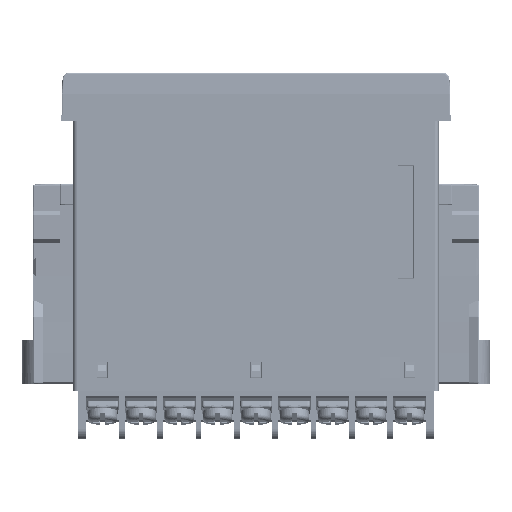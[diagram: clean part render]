
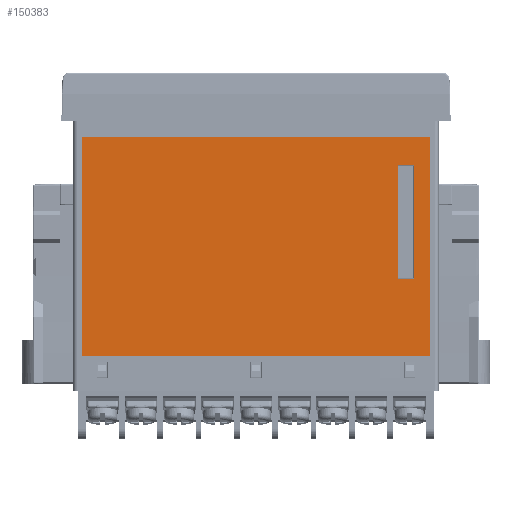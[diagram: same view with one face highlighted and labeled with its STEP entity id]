
A CAD part, left-side view. The second image highlights one B-rep face of the part: STEP entity #150383.
In plain terms, the highlighted planar face has unit normal (-1, 0, 0).
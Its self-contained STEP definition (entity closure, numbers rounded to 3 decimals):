
#6191 = EDGE_CURVE ( 'NONE', #239602, #147489, #277126, .T. ) ;
#8205 = VECTOR ( 'NONE', #19301, 1000. ) ;
#12495 = DIRECTION ( 'NONE',  ( 0., 0., -1. ) ) ;
#19301 = DIRECTION ( 'NONE',  ( 0., 0., 1. ) ) ;
#32607 = DIRECTION ( 'NONE',  ( 0., 0., 1. ) ) ;
#48867 = ORIENTED_EDGE ( 'NONE', *, *, #100745, .F. ) ;
#64475 = CARTESIAN_POINT ( 'NONE',  ( -33.725, -29.225, -34.3 ) ) ;
#67131 = CARTESIAN_POINT ( 'NONE',  ( -33.725, -26.225, -34.3 ) ) ;
#68502 = ORIENTED_EDGE ( 'NONE', *, *, #213053, .F. ) ;
#72426 = ORIENTED_EDGE ( 'NONE', *, *, #6191, .F. ) ;
#73585 = EDGE_LOOP ( 'NONE', ( #72426, #133188, #301153, #268217 ) ) ;
#78486 = VECTOR ( 'NONE', #288674, 1000. ) ;
#82000 = FACE_BOUND ( 'NONE', #73585, .T. ) ;
#82153 = LINE ( 'NONE', #218354, #8205 ) ;
#83056 = DIRECTION ( 'NONE',  ( 0., 1., 0. ) ) ;
#100745 = EDGE_CURVE ( 'NONE', #254710, #264376, #127899, .T. ) ;
#106804 = CARTESIAN_POINT ( 'NONE',  ( -33.725, -32.15, -8. ) ) ;
#115895 = ORIENTED_EDGE ( 'NONE', *, *, #190431, .F. ) ;
#118784 = CARTESIAN_POINT ( 'NONE',  ( -33.725, -29.225, -13.3 ) ) ;
#121452 = DIRECTION ( 'NONE',  ( 0., 0., -1. ) ) ;
#127899 = LINE ( 'NONE', #106804, #252598 ) ;
#130541 = CARTESIAN_POINT ( 'NONE',  ( -33.725, -32.15, -48.5 ) ) ;
#132874 = VECTOR ( 'NONE', #83056, 1000. ) ;
#133098 = CARTESIAN_POINT ( 'NONE',  ( -33.725, 32.15, -48.5 ) ) ;
#133188 = ORIENTED_EDGE ( 'NONE', *, *, #287567, .F. ) ;
#134272 = LINE ( 'NONE', #295560, #266714 ) ;
#140315 = FACE_OUTER_BOUND ( 'NONE', #234608, .T. ) ;
#140470 = CARTESIAN_POINT ( 'NONE',  ( -33.725, -32.15, -8. ) ) ;
#147489 = VERTEX_POINT ( 'NONE', #118784 ) ;
#150383 = ADVANCED_FACE ( 'NONE', ( #82000, #140315 ), #280754, .F. ) ;
#159254 = EDGE_CURVE ( 'NONE', #264376, #249372, #134272, .T. ) ;
#166465 = CARTESIAN_POINT ( 'NONE',  ( -33.725, -26.225, -13.3 ) ) ;
#181718 = DIRECTION ( 'NONE',  ( 1., 0., 0. ) ) ;
#190431 = EDGE_CURVE ( 'NONE', #217095, #254710, #82153, .T. ) ;
#191510 = VECTOR ( 'NONE', #191572, 1000. ) ;
#191572 = DIRECTION ( 'NONE',  ( 0., 1., 0. ) ) ;
#202074 = EDGE_CURVE ( 'NONE', #208591, #306460, #300794, .T. ) ;
#208591 = VERTEX_POINT ( 'NONE', #246543 ) ;
#213053 = EDGE_CURVE ( 'NONE', #249372, #217095, #249722, .T. ) ;
#217095 = VERTEX_POINT ( 'NONE', #296845 ) ;
#218354 = CARTESIAN_POINT ( 'NONE',  ( -33.725, 32.15, -8. ) ) ;
#224883 = CARTESIAN_POINT ( 'NONE',  ( -33.725, 32.15, -8. ) ) ;
#225091 = CARTESIAN_POINT ( 'NONE',  ( -33.725, -26.225, -34.3 ) ) ;
#229380 = CARTESIAN_POINT ( 'NONE',  ( -33.725, -29.225, -34.3 ) ) ;
#233230 = VECTOR ( 'NONE', #246945, 1000. ) ;
#234542 = VECTOR ( 'NONE', #12495, 1000. ) ;
#234608 = EDGE_LOOP ( 'NONE', ( #115895, #68502, #273999, #48867 ) ) ;
#239602 = VERTEX_POINT ( 'NONE', #229380 ) ;
#246543 = CARTESIAN_POINT ( 'NONE',  ( -33.725, -26.225, -13.3 ) ) ;
#246945 = DIRECTION ( 'NONE',  ( 0., -1., 0. ) ) ;
#249372 = VERTEX_POINT ( 'NONE', #283014 ) ;
#249722 = LINE ( 'NONE', #133098, #132874 ) ;
#252598 = VECTOR ( 'NONE', #307061, 1000. ) ;
#254710 = VERTEX_POINT ( 'NONE', #224883 ) ;
#264376 = VERTEX_POINT ( 'NONE', #140470 ) ;
#266714 = VECTOR ( 'NONE', #121452, 1000. ) ;
#268217 = ORIENTED_EDGE ( 'NONE', *, *, #295698, .F. ) ;
#273999 = ORIENTED_EDGE ( 'NONE', *, *, #159254, .F. ) ;
#277126 = LINE ( 'NONE', #64475, #78486 ) ;
#280754 = PLANE ( 'NONE',  #321701 ) ;
#283014 = CARTESIAN_POINT ( 'NONE',  ( -33.725, -32.15, -48.5 ) ) ;
#285613 = CARTESIAN_POINT ( 'NONE',  ( -33.725, -26.225, -34.3 ) ) ;
#287567 = EDGE_CURVE ( 'NONE', #306460, #239602, #291583, .T. ) ;
#288674 = DIRECTION ( 'NONE',  ( 0., 0., 1. ) ) ;
#291583 = LINE ( 'NONE', #225091, #233230 ) ;
#295560 = CARTESIAN_POINT ( 'NONE',  ( -33.725, -32.15, -48.5 ) ) ;
#295698 = EDGE_CURVE ( 'NONE', #147489, #208591, #316131, .T. ) ;
#296845 = CARTESIAN_POINT ( 'NONE',  ( -33.725, 32.15, -48.5 ) ) ;
#300794 = LINE ( 'NONE', #285613, #234542 ) ;
#301153 = ORIENTED_EDGE ( 'NONE', *, *, #202074, .F. ) ;
#306460 = VERTEX_POINT ( 'NONE', #67131 ) ;
#307061 = DIRECTION ( 'NONE',  ( 0., -1., 0. ) ) ;
#316131 = LINE ( 'NONE', #166465, #191510 ) ;
#321701 = AXIS2_PLACEMENT_3D ( 'NONE', #130541, #181718, #32607 ) ;
